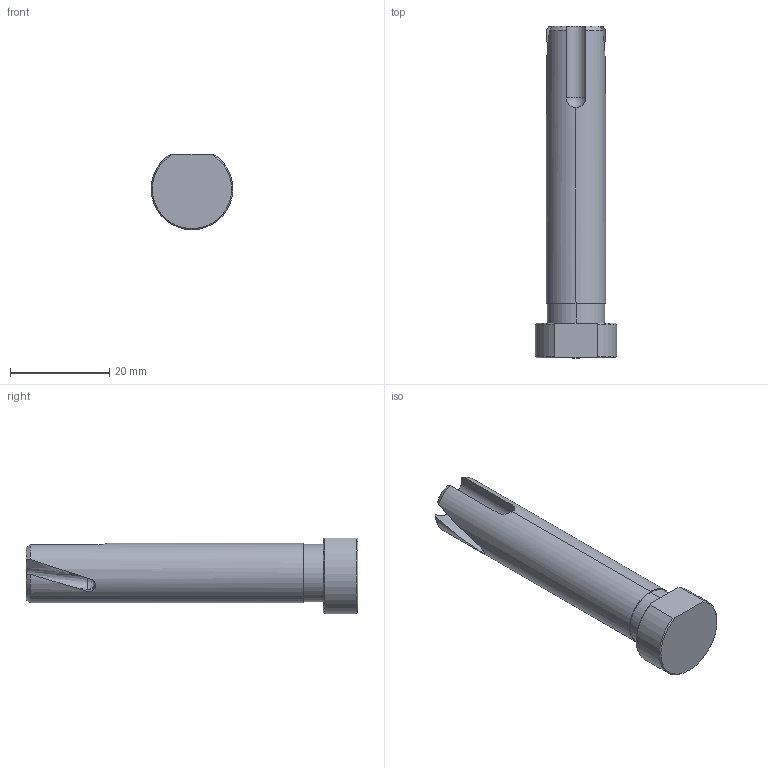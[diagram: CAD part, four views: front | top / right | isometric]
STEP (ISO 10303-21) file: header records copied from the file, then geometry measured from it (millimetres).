
FILE_DESCRIPTION (( 'STEP AP214' ), '1' );
FILE_NAME ('EGCP (P12.60.2-120).STEP', '2019-11-11T13:14:14', ( '' ), ( '' ), 'SwSTEP 2.0', 'SolidWorks 2014', '' );
FILE_SCHEMA (( 'AUTOMOTIVE_DESIGN' ));
Length unit declared in the file: millimetre
Products named in the file (1): EGCP (P12.60.2-120)
Bounding box: 16.5 x 67 x 15.25 mm (x, y, z)
Volume: 7624.3 mm3; surface area: 3314.2 mm2
Topology: 1 solids, 1 shells, 35 faces, 97 edges, 65 vertices
Faces by surface type: bspline 10, plane 9, cylinder 8, cone 7, sphere 1
Entity records: 3130 total; most frequent: CARTESIAN_POINT 2304, ORIENTED_EDGE 190, DIRECTION 131, EDGE_CURVE 95, VERTEX_POINT 64, AXIS2_PLACEMENT_3D 56, B_SPLINE_CURVE_WITH_KNOTS 46, EDGE_LOOP 37
